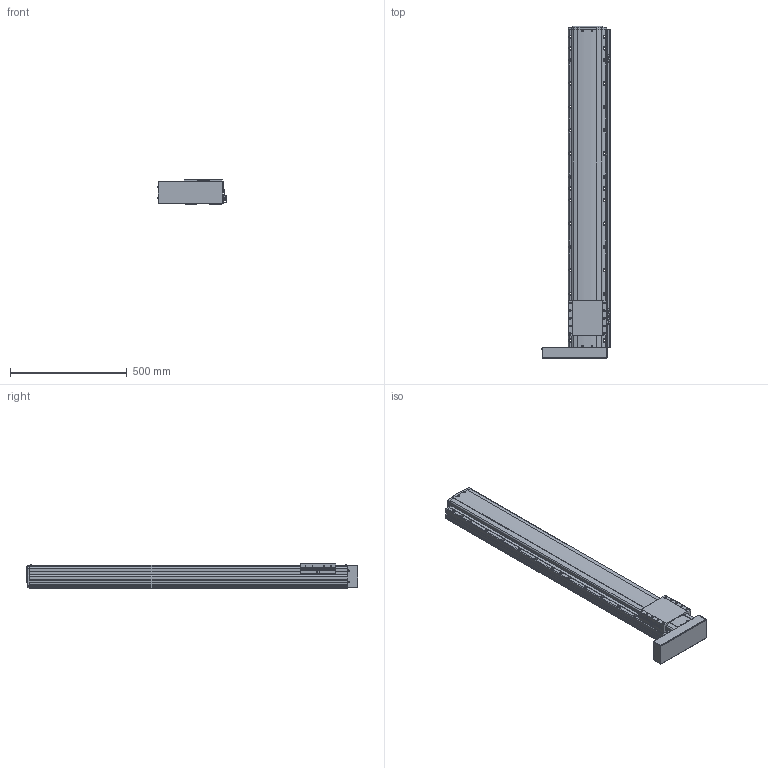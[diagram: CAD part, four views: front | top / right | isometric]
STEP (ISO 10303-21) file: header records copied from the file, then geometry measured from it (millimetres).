
FILE_DESCRIPTION(('STEP AP214'),'1');
FILE_NAME('Z:/Web/3D/PSA165/STP/PSA165-1100 (3D)/PSA165ㅁㅁ-1100PL+3SR.stp','2014-06-24T10:27:37',(' '),(' '),'Spatial InterOp 3D',' ',' ');
FILE_SCHEMA(('automotive_design'));
Length unit declared in the file: millimetre
Products named in the file (41): 스크루 : Round - M4.0 x 12.0; RRCV-PA160; BASE; 스크루 : Round - M4.0 x 10.0; RN15; Screw 20; SLIDE; FRCV; MTPL; 스크루 : Round - M3.0 x 6.0; M3.0 x 6.0; SRL-16x17-360L; SGD-SAN150; EE-SX674; SBK-SX674-352; BHCS M4.0 x 10.0
Bounding box: 294.46 x 1420.8 x 104 mm (x, y, z)
Volume: 20199727.6 mm3; surface area: 1383069.8 mm2
Topology: 41 solids, 41 shells, 2624 faces, 7041 edges, 4513 vertices
Faces by surface type: plane 1467, cylinder 819, cone 233, sphere 64, bspline 25, torus 16
Entity records: 106573 total; most frequent: CARTESIAN_POINT 18533, DIRECTION 14019, ORIENTED_EDGE 13758, EDGE_CURVE 6879, AXIS2_PLACEMENT_3D 4733, LINE 4553, VECTOR 4553, VERTEX_POINT 4513
